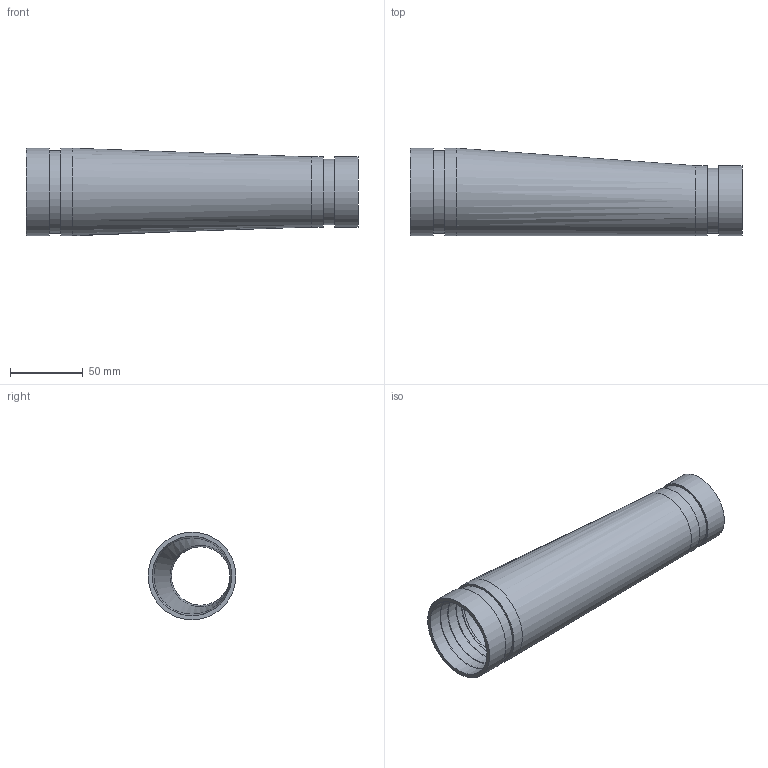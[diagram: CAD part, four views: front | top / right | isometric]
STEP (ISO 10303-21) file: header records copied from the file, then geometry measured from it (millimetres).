
FILE_DESCRIPTION(/* description */ ('VIC REDUCER ECCENTRIC No 451H-SS','CAx-IF Rec.Pracs.---Representation and Presentation of Product Manufacturing Information (PMI)---4.0---2014-10-13'),/* implementation_level */ '2;1');
FILE_NAME(/* name */ 'C:\Users\kkamble\AppData\Roaming\Autodesk\ApplicationPlugins\Back Up\Victaulic_SS-OGS_Reducer Eccentric_Sched 40S_No 451H SS (OGS)\Victaulic_SS-OGS_Reducer Eccentric_Sched 40S_No 451H SS (OGS)_02.0x01.5 (50x40).stp',/* time_stamp */ '2020-08-25T18:05:26+06:00',/* author */ ('CORINNE GRAY'),/* organization */ ('Victaulic'),/* preprocessor_version */ 'ST-DEVELOPER v17.2',/* originating_system */ 'Autodesk Inventor 2019',/* authorisation */ '');
FILE_SCHEMA (('AP242_MANAGED_MODEL_BASED_3D_ENGINEERING_MIM_LF { 1 0 10303 442 1 1 4 }'));
Length unit declared in the file: inch
Products named in the file (1): 451H SS-02.0x01.5
Bounding box: 228.6 x 60.33 x 60.33 mm (x, y, z)
Volume: 102993.1 mm3; surface area: 75702.7 mm2
Topology: 1 solids, 1 shells, 32 faces, 109 edges, 83 vertices
Faces by surface type: cylinder 12, torus 8, plane 6, cone 4, bspline 2
Full cylindrical faces by diameter (mm): 40.259 x1, 42.672 x2, 45.085 x1, 48.26 x2, 52.578 x1, 54.864 x2, 57.15 x1, 60.325 x2
Entity records: 1484 total; most frequent: DIRECTION 286, CARTESIAN_POINT 278, ORIENTED_EDGE 218, AXIS2_PLACEMENT_3D 135, EDGE_CURVE 109, CIRCLE 91, VERTEX_POINT 83, EDGE_LOOP 38
